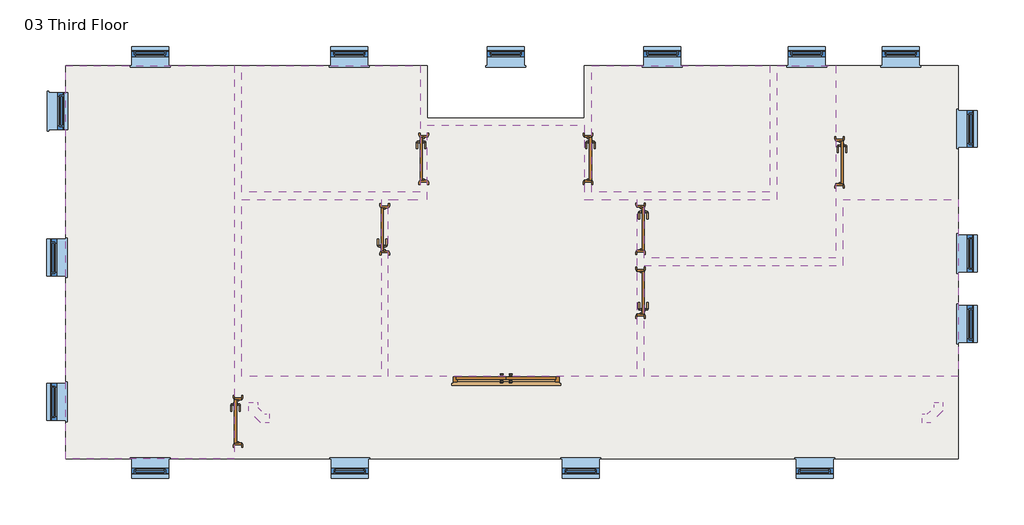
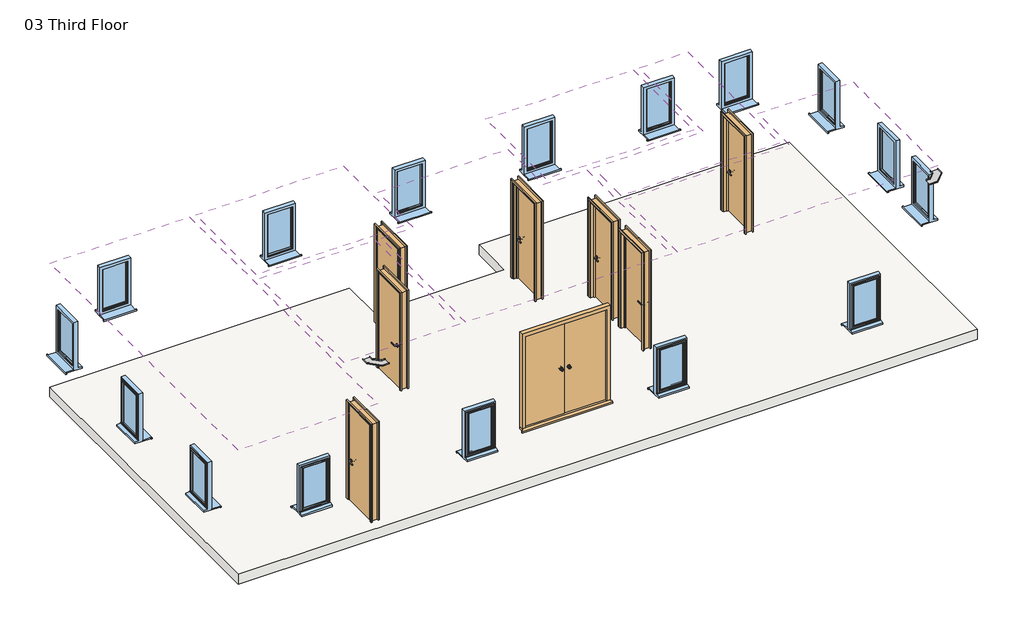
# One storey: 16 windows, 8 doors, 7 coverings, 2 cable carrier fittings, 1 slab.
"""IFC4 building model written with IfcOpenShell, lengths in millimetres."""

from ifc_helpers import new_model, si_unit, frame, origin, place, context, project, spatial, polyline, outline, extrude, transform, mapped, element, save
from components import cable_tray_horizontal_bend_standard_cea69160, extdbl_flush_1810_x_2110mm_182ebfd7, intsgl_1_810_x_2110mm_5ef26f82, intsgl_1_810_x_2110mm_60c2a13c, sgl_plain_630_x_1050mm_deep_554a1539

model = new_model("IFC4")

# Units and contexts
model_context = context("Model", 3, world=origin())
ifc_project = project(units=[si_unit("LENGTHUNIT", "METRE", prefix="MILLI")], contexts=[model_context])

# Site, building, storey
site = spatial("IfcSite", under=ifc_project)
building = spatial("IfcBuilding", under=site)
storey = spatial("IfcBuildingStorey", under=building, Name="03 Third Floor", Elevation=8000.0)

# Cable carrier fittings
placement = place(None, origin())
cable_tray_horizontal_bend_standard_shape = cable_tray_horizontal_bend_standard_cea69160(model_context)
element("IfcCableCarrierFitting", 1, ObjectType="Cable Tray Horizontal Bend : Standard", at=placement, inside=storey, context=model_context, shape_type="MappedRepresentation", body=[
    mapped(cable_tray_horizontal_bend_standard_shape, transform((8567.076402, -4128.3205251, 11000.0), x_axis=(1.0, 0.0, 0.0), y_axis=(0.0, 1.0, 0.0), z_axis=(0.0, 0.0, 1.0))),
])
element("IfcCableCarrierFitting", 2, ObjectType="Cable Tray Horizontal Bend : Standard", at=placement, inside=storey, context=model_context, shape_type="MappedRepresentation", body=[
    mapped(cable_tray_horizontal_bend_standard_shape, transform((-3112.923598, -4128.3205251, 11000.0), x_axis=(0.0, -1.0, 0.0), y_axis=(1.0, 0.0, 0.0), z_axis=(0.0, 0.0, 1.0))),
])

# Coverings
element("IfcCovering", 3, ObjectType="600 x 600mm grid 2", at=placement, inside=storey, context=model_context, shape_type="SweptSolid", body=[
    extrude(outline(polyline([(-3433.0198612, 1889.6075821), (-3433.0198612, -4820.3924179), (-6308.0198612, -4820.3924179), (-6308.0198612, 1889.6075821), (-3433.0198612, 1889.6075821)])), frame((0.0, 0.0, 10700.0), z_axis=(0.0, 0.0, 1.0), x_axis=(1.0, 0.0, 0.0)), (0.0, 0.0, 1.0), 52.0),
])
element("IfcCovering", 4, ObjectType="600 x 600mm grid 2", at=placement, inside=storey, context=model_context, shape_type="SweptSolid", body=[
    extrude(outline(polyline([(-3308.0198612, 1889.6075821), (-270.5198612, 1889.6075821), (-270.5198612, -265.3924179), (-3308.0198612, -265.3924179), (-3308.0198612, 1889.6075821)])), frame((0.0, 0.0, 10700.0), z_axis=(0.0, 0.0, 1.0), x_axis=(1.0, 0.0, 0.0)), (0.0, 0.0, 1.0), 52.0),
])
element("IfcCovering", 5, ObjectType="600 x 600mm grid 2", at=placement, inside=storey, context=model_context, shape_type="SweptSolid", body=[
    extrude(outline(polyline([(-3308.0198612, -390.3924179), (-933.0198612, -390.3924179), (-933.0198612, -3407.8924179), (-3308.0198612, -3407.8924179), (-3308.0198612, -390.3924179)])), frame((0.0, 0.0, 10700.0), z_axis=(0.0, 0.0, 1.0), x_axis=(1.0, 0.0, 0.0)), (0.0, 0.0, 1.0), 52.0),
])
element("IfcCovering", 6, ObjectType="600 x 600mm grid 2", at=placement, inside=storey, context=model_context, shape_type="SweptSolid", body=[
    extrude(outline(polyline([(-808.0198612, -390.3924179), (-145.5198612, -390.3924179), (-145.5198612, 872.1075821), (2529.4801388, 872.1075821), (2529.4801388, -390.3924179), (3426.9801388, -390.3924179), (3426.9801388, -3407.8924179), (-808.0198612, -3407.8924179), (-808.0198612, -390.3924179)])), frame((0.0, 0.0, 10700.0), z_axis=(0.0, 0.0, 1.0), x_axis=(1.0, 0.0, 0.0)), (0.0, 0.0, 1.0), 52.0),
])
element("IfcCovering", 7, ObjectType="600 x 600mm grid 2", at=placement, inside=storey, context=model_context, shape_type="SweptSolid", body=[
    extrude(outline(polyline([(2654.4801388, 1889.6075821), (5691.9801388, 1889.6075821), (5691.9801388, -265.3924179), (2654.4801388, -265.3924179), (2654.4801388, 1889.6075821)])), frame((0.0, 0.0, 10700.0), z_axis=(0.0, 0.0, 1.0), x_axis=(1.0, 0.0, 0.0)), (0.0, 0.0, 1.0), 52.0),
])
element("IfcCovering", 8, ObjectType="600 x 600mm grid 2", at=placement, inside=storey, context=model_context, shape_type="SweptSolid", body=[
    extrude(outline(polyline([(5816.9801388, 1889.6075821), (6816.9801388, 1889.6075821), (6816.9801388, -1390.3924179), (3551.9801388, -1390.3924179), (3551.9801388, -390.3924179), (5816.9801388, -390.3924179), (5816.9801388, 1889.6075821)])), frame((0.0, 0.0, 10700.0), z_axis=(0.0, 0.0, 1.0), x_axis=(1.0, 0.0, 0.0)), (0.0, 0.0, 1.0), 52.0),
])
element("IfcCovering", 9, ObjectType="600 x 600mm grid 2", at=placement, inside=storey, context=model_context, shape_type="SweptSolid", body=[
    extrude(outline(polyline([(8901.9801388, -390.3924179), (8901.9801388, -3407.8924179), (3551.9801388, -3407.8924179), (3551.9801388, -1515.3924179), (6941.9801388, -1515.3924179), (6941.9801388, -390.3924179), (8901.9801388, -390.3924179)])), frame((0.0, 0.0, 10700.0), z_axis=(0.0, 0.0, 1.0), x_axis=(1.0, 0.0, 0.0)), (0.0, 0.0, 1.0), 52.0),
])

# Doors
extdbl_flush_1810_x_2110mm_shape = extdbl_flush_1810_x_2110mm_182ebfd7(model_context)
element("IfcDoor", 10, ObjectType="ExtDbl Flush : 1810 x 2110mm", at=placement, inside=storey, context=model_context, shape_type="MappedRepresentation", body=[
    mapped(extdbl_flush_1810_x_2110mm_shape, transform((1196.9801388, -3470.3924179, 8000.0), x_axis=(1.0, 0.0, 0.0), y_axis=(0.0, 1.0, 0.0), z_axis=(0.0, 0.0, 1.0))),
])
intsgl_1_810_x_2110mm_shape = intsgl_1_810_x_2110mm_5ef26f82(model_context)
element("IfcDoor", 11, ObjectType="IntSgl (1) : 810 x 2110mm", at=placement, inside=storey, context=model_context, shape_type="MappedRepresentation", body=[
    mapped(intsgl_1_810_x_2110mm_shape, transform((-208.0198612, 303.3575821, 8000.0), x_axis=(0.0, -1.0, 0.0), y_axis=(1.0, 0.0, 0.0), z_axis=(0.0, 0.0, 1.0))),
])
element("IfcDoor", 12, ObjectType="IntSgl (1) : 810 x 2110mm", at=placement, inside=storey, context=model_context, shape_type="MappedRepresentation", body=[
    mapped(intsgl_1_810_x_2110mm_shape, transform((3489.4801388, -1982.8924179, 8000.0), x_axis=(0.0, 1.0, 0.0), y_axis=(-1.0, 0.0, 0.0), z_axis=(0.0, 0.0, 1.0))),
])
intsgl_1_810_x_2110mm_2_shape = intsgl_1_810_x_2110mm_60c2a13c(model_context)
element("IfcDoor", 13, ObjectType="IntSgl (1) : 810 x 2110mm", at=placement, inside=storey, context=model_context, shape_type="MappedRepresentation", body=[
    mapped(intsgl_1_810_x_2110mm_2_shape, transform((2591.9801388, 303.3575821, 8000.0), x_axis=(0.0, -1.0, 0.0), y_axis=(1.0, 0.0, 0.0), z_axis=(0.0, 0.0, 1.0))),
])
element("IfcDoor", 14, ObjectType="IntSgl (1) : 810 x 2110mm", at=placement, inside=storey, context=model_context, shape_type="MappedRepresentation", body=[
    mapped(intsgl_1_810_x_2110mm_2_shape, transform((-870.5198612, -902.8924179, 8000.0), x_axis=(0.0, 1.0, 0.0), y_axis=(-1.0, 0.0, 0.0), z_axis=(0.0, 0.0, 1.0))),
])
element("IfcDoor", 15, ObjectType="IntSgl (1) : 810 x 2110mm", at=placement, inside=storey, context=model_context, shape_type="MappedRepresentation", body=[
    mapped(intsgl_1_810_x_2110mm_2_shape, transform((3489.4801388, -890.3924179, 8000.0), x_axis=(0.0, -1.0, 0.0), y_axis=(1.0, 0.0, 0.0), z_axis=(0.0, 0.0, 1.0))),
])
element("IfcDoor", 16, ObjectType="IntSgl (1) : 810 x 2110mm", at=placement, inside=storey, context=model_context, shape_type="MappedRepresentation", body=[
    mapped(intsgl_1_810_x_2110mm_shape, transform((-3370.5198612, -4176.6424179, 8000.0), x_axis=(0.0, -1.0, 0.0), y_axis=(1.0, 0.0, 0.0), z_axis=(0.0, 0.0, 1.0))),
])
element("IfcDoor", 17, ObjectType="IntSgl (1) : 810 x 2110mm", at=placement, inside=storey, context=model_context, shape_type="MappedRepresentation", body=[
    mapped(intsgl_1_810_x_2110mm_2_shape, transform((6879.4801388, 239.6075821, 8000.0), x_axis=(0.0, -1.0, 0.0), y_axis=(1.0, 0.0, 0.0), z_axis=(0.0, 0.0, 1.0))),
])

# Slab
element("IfcSlab", 18, ObjectType="160mm Concrete with Corus-ComFlor 51", at=placement, inside=storey, context=model_context, shape_type="SweptSolid", body=[
    extrude(outline(polyline([(8901.9801388, -4820.3924179), (-6308.0198612, -4820.3924179), (-6308.0198612, 1889.6075821), (-145.5198612, 1889.6075821), (-145.5198612, 997.1075821), (2529.4801388, 997.1075821), (2529.4801388, 1889.6075821), (8901.9801388, 1889.6075821), (8901.9801388, -4820.3924179)])), frame((0.0, 0.0, 7789.0), z_axis=(0.0, 0.0, 1.0), x_axis=(1.0, 0.0, 0.0)), (0.0, 0.0, 1.0), 211.0),
])

# Windows
sgl_plain_630_x_1050mm_deep_shape = sgl_plain_630_x_1050mm_deep_554a1539(model_context)
element("IfcWindow", 19, ObjectType="Sgl Plain : 630 x 1050mm Deep", at=placement, inside=storey, context=model_context, shape_type="MappedRepresentation", body=[
    mapped(sgl_plain_630_x_1050mm_deep_shape, transform((-6461.476429, 1117.4075821, 8000.0), x_axis=(0.0, -1.0, 0.0), y_axis=(1.0, 0.0, 0.0), z_axis=(0.0, 0.0, 1.0))),
])
element("IfcWindow", 20, ObjectType="Sgl Plain : 630 x 1050mm Deep", at=placement, inside=storey, context=model_context, shape_type="MappedRepresentation", body=[
    mapped(sgl_plain_630_x_1050mm_deep_shape, transform((6453.3801388, -4956.9358501, 8000.0), x_axis=(-1.0, 0.0, 0.0), y_axis=(0.0, -1.0, 0.0), z_axis=(0.0, 0.0, 1.0))),
])
element("IfcWindow", 21, ObjectType="Sgl Plain : 630 x 1050mm Deep", at=placement, inside=storey, context=model_context, shape_type="MappedRepresentation", body=[
    mapped(sgl_plain_630_x_1050mm_deep_shape, transform((2470.5801388, -4956.9358501, 8000.0), x_axis=(-1.0, 0.0, 0.0), y_axis=(0.0, -1.0, 0.0), z_axis=(0.0, 0.0, 1.0))),
])
element("IfcWindow", 22, ObjectType="Sgl Plain : 630 x 1050mm Deep", at=placement, inside=storey, context=model_context, shape_type="MappedRepresentation", body=[
    mapped(sgl_plain_630_x_1050mm_deep_shape, transform((-1469.0198612, -4956.9358501, 8000.0), x_axis=(-1.0, 0.0, 0.0), y_axis=(0.0, -1.0, 0.0), z_axis=(0.0, 0.0, 1.0))),
])
element("IfcWindow", 23, ObjectType="Sgl Plain : 630 x 1050mm Deep", at=placement, inside=storey, context=model_context, shape_type="MappedRepresentation", body=[
    mapped(sgl_plain_630_x_1050mm_deep_shape, transform((-4870.5198612, -4956.9358501, 8000.0), x_axis=(-1.0, 0.0, 0.0), y_axis=(0.0, -1.0, 0.0), z_axis=(0.0, 0.0, 1.0))),
])
element("IfcWindow", 24, ObjectType="Sgl Plain : 630 x 1050mm Deep", at=placement, inside=storey, context=model_context, shape_type="MappedRepresentation", body=[
    mapped(sgl_plain_630_x_1050mm_deep_shape, transform((-6444.5632933, -3844.9924179, 8000.0), x_axis=(0.0, 1.0, 0.0), y_axis=(-1.0, 0.0, 0.0), z_axis=(0.0, 0.0, 1.0))),
])
element("IfcWindow", 25, ObjectType="Sgl Plain : 630 x 1050mm Deep", at=placement, inside=storey, context=model_context, shape_type="MappedRepresentation", body=[
    mapped(sgl_plain_630_x_1050mm_deep_shape, transform((-6444.5632933, -1386.1924179, 8000.0), x_axis=(0.0, 1.0, 0.0), y_axis=(-1.0, 0.0, 0.0), z_axis=(0.0, 0.0, 1.0))),
])
element("IfcWindow", 26, ObjectType="Sgl Plain : 630 x 1050mm Deep", at=placement, inside=storey, context=model_context, shape_type="MappedRepresentation", body=[
    mapped(sgl_plain_630_x_1050mm_deep_shape, transform((-4870.5198612, 2026.1510143, 8000.0), x_axis=(1.0, 0.0, 0.0), y_axis=(0.0, 1.0, 0.0), z_axis=(0.0, 0.0, 1.0))),
])
element("IfcWindow", 27, ObjectType="Sgl Plain : 630 x 1050mm Deep", at=placement, inside=storey, context=model_context, shape_type="MappedRepresentation", body=[
    mapped(sgl_plain_630_x_1050mm_deep_shape, transform((-1476.7698612, 2026.1510143, 8000.0), x_axis=(1.0, 0.0, 0.0), y_axis=(0.0, 1.0, 0.0), z_axis=(0.0, 0.0, 1.0))),
])
element("IfcWindow", 28, ObjectType="Sgl Plain : 630 x 1050mm Deep", at=placement, inside=storey, context=model_context, shape_type="MappedRepresentation", body=[
    mapped(sgl_plain_630_x_1050mm_deep_shape, transform((1191.9801388, 2026.1510143, 8000.0), x_axis=(1.0, 0.0, 0.0), y_axis=(0.0, 1.0, 0.0), z_axis=(0.0, 0.0, 1.0))),
])
element("IfcWindow", 29, ObjectType="Sgl Plain : 630 x 1050mm Deep", at=placement, inside=storey, context=model_context, shape_type="MappedRepresentation", body=[
    mapped(sgl_plain_630_x_1050mm_deep_shape, transform((3860.7301388, 2026.1510143, 8000.0), x_axis=(1.0, 0.0, 0.0), y_axis=(0.0, 1.0, 0.0), z_axis=(0.0, 0.0, 1.0))),
])
element("IfcWindow", 30, ObjectType="Sgl Plain : 630 x 1050mm Deep", at=placement, inside=storey, context=model_context, shape_type="MappedRepresentation", body=[
    mapped(sgl_plain_630_x_1050mm_deep_shape, transform((6316.9801388, 2026.1510143, 8000.0), x_axis=(1.0, 0.0, 0.0), y_axis=(0.0, 1.0, 0.0), z_axis=(0.0, 0.0, 1.0))),
])
element("IfcWindow", 31, ObjectType="Sgl Plain : 630 x 1050mm Deep", at=placement, inside=storey, context=model_context, shape_type="MappedRepresentation", body=[
    mapped(sgl_plain_630_x_1050mm_deep_shape, transform((7921.9801388, 2026.1510143, 8000.0), x_axis=(1.0, 0.0, 0.0), y_axis=(0.0, 1.0, 0.0), z_axis=(0.0, 0.0, 1.0))),
])
element("IfcWindow", 32, ObjectType="Sgl Plain : 630 x 1050mm Deep", at=placement, inside=storey, context=model_context, shape_type="MappedRepresentation", body=[
    mapped(sgl_plain_630_x_1050mm_deep_shape, transform((9038.523571, 812.1075821, 8000.0), x_axis=(0.0, -1.0, 0.0), y_axis=(1.0, 0.0, 0.0), z_axis=(0.0, 0.0, 1.0))),
])
element("IfcWindow", 33, ObjectType="Sgl Plain : 630 x 1050mm Deep", at=placement, inside=storey, context=model_context, shape_type="MappedRepresentation", body=[
    mapped(sgl_plain_630_x_1050mm_deep_shape, transform((9038.523571, -1314.9924179, 8000.0), x_axis=(0.0, -1.0, 0.0), y_axis=(1.0, 0.0, 0.0), z_axis=(0.0, 0.0, 1.0))),
])
element("IfcWindow", 34, ObjectType="Sgl Plain : 630 x 1050mm Deep", at=placement, inside=storey, context=model_context, shape_type="MappedRepresentation", body=[
    mapped(sgl_plain_630_x_1050mm_deep_shape, transform((9038.523571, -2518.9424179, 8000.0), x_axis=(0.0, -1.0, 0.0), y_axis=(1.0, 0.0, 0.0), z_axis=(0.0, 0.0, 1.0))),
])

save(model, "model.ifc")
